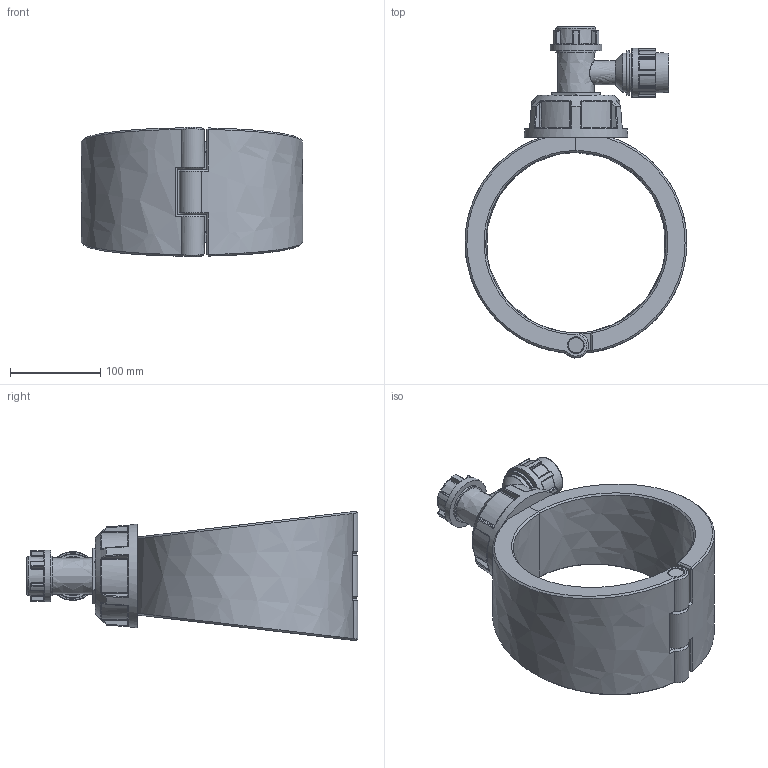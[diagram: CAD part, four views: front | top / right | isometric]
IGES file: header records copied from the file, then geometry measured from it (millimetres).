
Global section: file name: 163100200025; native system: Autodesk Inventor 2019; preprocessor: unknown; author: comp2; date: 20240828.104002; units: millimetre
Bounding box: 245.88 x 368 x 143.53 mm (x, y, z)
Volume: 2399398.5 mm3; surface area: 278016.3 mm2
Topology: 4 solids, 4 shells, 519 faces, 1253 edges, 754 vertices
Faces by surface type: bspline 519
